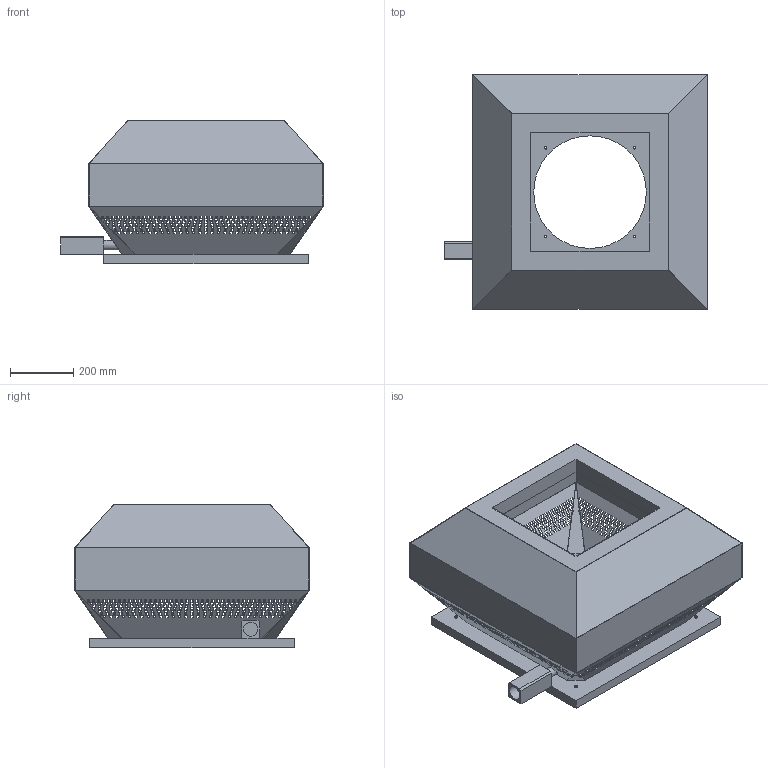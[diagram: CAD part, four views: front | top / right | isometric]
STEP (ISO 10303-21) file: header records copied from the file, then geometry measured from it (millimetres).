
FILE_DESCRIPTION(/* description */ (''),/* implementation_level */ '2;1');
FILE_NAME(/* name */ 'Z:\Output\RDD_EC_355-07335-001.stp',/* time_stamp */ '2020-06-25T17:07:06+02:00',/* author */ ('engineering1'),/* organization */ (''),/* preprocessor_version */ 'ST-DEVELOPER v17.2',/* originating_system */ 'Autodesk Inventor 2019',/* authorisation */ '');
FILE_SCHEMA (('AUTOMOTIVE_DESIGN { 1 0 10303 214 3 1 1 }'));
Products named in the file (1): RD-2
Bounding box: 828.5 x 740 x 452 mm (x, y, z)
Volume: 4475055.5 mm3; surface area: 3738696.8 mm2
Topology: 1 solids, 1 shells, 4021 faces, 12112 edges, 8048 vertices
Faces by surface type: plane 4005, cylinder 16
Full cylindrical faces by diameter (mm): 8 x8, 12 x4, 30.133 x2, 45.2 x1, 355 x1
Entity records: 138931 total; most frequent: ORIENTED_EDGE 24224, CARTESIAN_POINT 24182, DIRECTION 20188, EDGE_CURVE 12112, LINE 12080, VECTOR 12080, VERTEX_POINT 8048, EDGE_LOOP 5972
